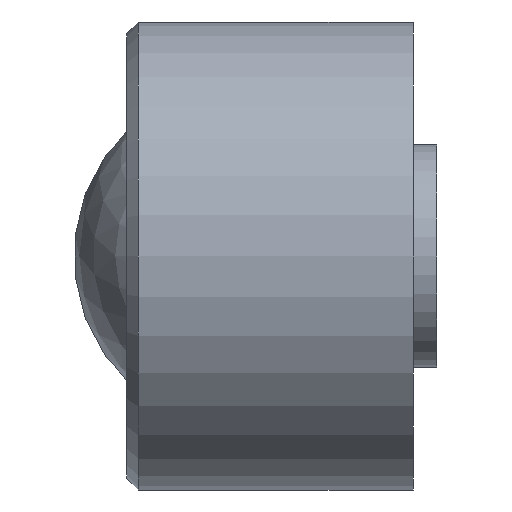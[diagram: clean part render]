
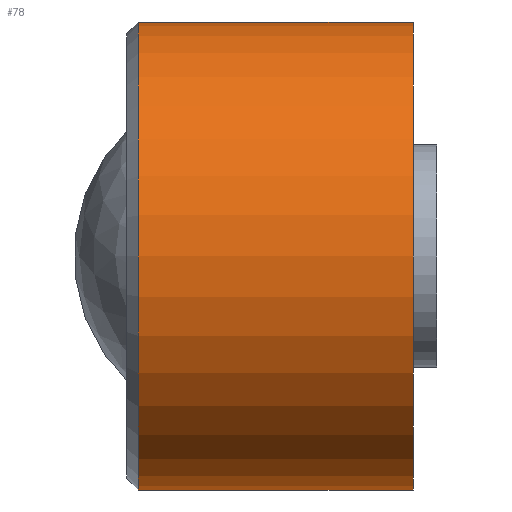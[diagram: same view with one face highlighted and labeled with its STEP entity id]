
A CAD part, left-side view. The second image highlights one B-rep face of the part: STEP entity #78.
In plain terms, the highlighted cylindrical face has radius 20 mm (diameter 40 mm), a full revolution.
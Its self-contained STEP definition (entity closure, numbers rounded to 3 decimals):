
#78 = ADVANCED_FACE( '', ( #99, #100, #101 ), #102, .T. );
#99 = FACE_OUTER_BOUND( '', #141, .T. );
#100 = FACE_BOUND( '', #142, .T. );
#101 = FACE_OUTER_BOUND( '', #143, .T. );
#102 = CYLINDRICAL_SURFACE( '', #144, 20. );
#141 = EDGE_LOOP( '', ( #189 ) );
#142 = EDGE_LOOP( '', ( #190 ) );
#143 = EDGE_LOOP( '', ( #191 ) );
#144 = AXIS2_PLACEMENT_3D( '', #192, #193, #194 );
#189 = ORIENTED_EDGE( '', *, *, #249, .F. );
#190 = ORIENTED_EDGE( '', *, *, #250, .F. );
#191 = ORIENTED_EDGE( '', *, *, #251, .T. );
#192 = CARTESIAN_POINT( '', ( 0., 0., 0. ) );
#193 = DIRECTION( '', ( 0., 1., 0. ) );
#194 = DIRECTION( '', ( 0., 0., -1. ) );
#249 = EDGE_CURVE( '', #267, #267, #268, .T. );
#250 = EDGE_CURVE( '', #269, #269, #270, .T. );
#251 = EDGE_CURVE( '', #271, #271, #272, .T. );
#267 = VERTEX_POINT( '', #293 );
#268 = CIRCLE( '', #294, 20. );
#269 = VERTEX_POINT( '', #295 );
#270 = B_SPLINE_CURVE_WITH_KNOTS( '', 3, ( #296, #297, #298, #299, #300, #301, #302, #303, #304, #305, #306, #307, #308, #309, #310, #311, #312, #313, #314, #315, #316, #317, #318, #319, #320, #321, #322, #323, #324, #325, #326, #327, #328, #329, #330, #331, #332, #333, #334, #335, #336, #337, #338, #339, #340, #341, #342, #343, #344, #345, #346, #347, #348, #349, #350, #351, #352, #353, #354, #355, #356, #357, #358, #359, #360, #361, #362, #363, #364, #365, #366, #367, #368, #369, #370, #371, #372, #373, #374, #375, #376, #377, #378, #379 ), .UNSPECIFIED., .T., .F., ( 2, 2, 2, 2, 2, 2, 2, 2, 2, 2, 2, 2, 2, 2, 2, 2, 2, 2, 2, 2, 2, 2, 2, 2, 2, 2, 2, 2, 2, 2, 2, 2, 2, 2, 2, 2, 2, 2, 2, 2, 2, 2, 2, 2 ), ( -0.001, 0., 0.001, 0.002, 0.002, 0.004, 0.004, 0.005, 0.006, 0.007, 0.008, 0.008, 0.009, 0.011, 0.012, 0.013, 0.014, 0.014, 0.015, 0.017, 0.018, 0.018, 0.019, 0.02, 0.021, 0.022, 0.024, 0.024, 0.025, 0.026, 0.027, 0.028, 0.028, 0.029, 0.03, 0.031, 0.032, 0.033, 0.034, 0.034, 0.035, 0.037, 0.038, 0.039 ), .UNSPECIFIED. );
#271 = VERTEX_POINT( '', #380 );
#272 = CIRCLE( '', #381, 20. );
#293 = CARTESIAN_POINT( '', ( 0., 2., -20. ) );
#294 = AXIS2_PLACEMENT_3D( '', #406, #407, #408 );
#295 = CARTESIAN_POINT( '', ( 19.079, 16., 6. ) );
#296 = CARTESIAN_POINT( '', ( 19.079, 16.399, 6. ) );
#297 = CARTESIAN_POINT( '', ( 19.079, 15.601, 6. ) );
#298 = CARTESIAN_POINT( '', ( 19.091, 15.209, 5.961 ) );
#299 = CARTESIAN_POINT( '', ( 19.127, 14.632, 5.845 ) );
#300 = CARTESIAN_POINT( '', ( 19.141, 14.441, 5.797 ) );
#301 = CARTESIAN_POINT( '', ( 19.176, 14.063, 5.682 ) );
#302 = CARTESIAN_POINT( '', ( 19.196, 13.876, 5.615 ) );
#303 = CARTESIAN_POINT( '', ( 19.261, 13.332, 5.388 ) );
#304 = CARTESIAN_POINT( '', ( 19.312, 12.988, 5.204 ) );
#305 = CARTESIAN_POINT( '', ( 19.396, 12.5, 4.878 ) );
#306 = CARTESIAN_POINT( '', ( 19.426, 12.342, 4.76 ) );
#307 = CARTESIAN_POINT( '', ( 19.485, 12.039, 4.511 ) );
#308 = CARTESIAN_POINT( '', ( 19.515, 11.894, 4.38 ) );
#309 = CARTESIAN_POINT( '', ( 19.605, 11.482, 3.967 ) );
#310 = CARTESIAN_POINT( '', ( 19.664, 11.234, 3.667 ) );
#311 = CARTESIAN_POINT( '', ( 19.775, 10.796, 3.011 ) );
#312 = CARTESIAN_POINT( '', ( 19.825, 10.611, 2.666 ) );
#313 = CARTESIAN_POINT( '', ( 19.888, 10.386, 2.125 ) );
#314 = CARTESIAN_POINT( '', ( 19.906, 10.319, 1.941 ) );
#315 = CARTESIAN_POINT( '', ( 19.94, 10.204, 1.564 ) );
#316 = CARTESIAN_POINT( '', ( 19.954, 10.155, 1.37 ) );
#317 = CARTESIAN_POINT( '', ( 19.988, 10.039, 0.789 ) );
#318 = CARTESIAN_POINT( '', ( 20., 10., 0.398 ) );
#319 = CARTESIAN_POINT( '', ( 20., 10., -0.39 ) );
#320 = CARTESIAN_POINT( '', ( 19.988, 10.039, -0.79 ) );
#321 = CARTESIAN_POINT( '', ( 19.943, 10.193, -1.562 ) );
#322 = CARTESIAN_POINT( '', ( 19.909, 10.308, -1.937 ) );
#323 = CARTESIAN_POINT( '', ( 19.825, 10.611, -2.666 ) );
#324 = CARTESIAN_POINT( '', ( 19.774, 10.797, -3.014 ) );
#325 = CARTESIAN_POINT( '', ( 19.692, 11.122, -3.499 ) );
#326 = CARTESIAN_POINT( '', ( 19.664, 11.239, -3.656 ) );
#327 = CARTESIAN_POINT( '', ( 19.605, 11.487, -3.958 ) );
#328 = CARTESIAN_POINT( '', ( 19.575, 11.62, -4.105 ) );
#329 = CARTESIAN_POINT( '', ( 19.485, 12.035, -4.52 ) );
#330 = CARTESIAN_POINT( '', ( 19.425, 12.335, -4.767 ) );
#331 = CARTESIAN_POINT( '', ( 19.313, 12.983, -5.201 ) );
#332 = CARTESIAN_POINT( '', ( 19.261, 13.335, -5.39 ) );
#333 = CARTESIAN_POINT( '', ( 19.174, 14.058, -5.69 ) );
#334 = CARTESIAN_POINT( '', ( 19.139, 14.432, -5.805 ) );
#335 = CARTESIAN_POINT( '', ( 19.103, 15.013, -5.921 ) );
#336 = CARTESIAN_POINT( '', ( 19.094, 15.211, -5.951 ) );
#337 = CARTESIAN_POINT( '', ( 19.082, 15.604, -5.99 ) );
#338 = CARTESIAN_POINT( '', ( 19.079, 15.801, -6. ) );
#339 = CARTESIAN_POINT( '', ( 19.079, 16.39, -6. ) );
#340 = CARTESIAN_POINT( '', ( 19.091, 16.784, -5.962 ) );
#341 = CARTESIAN_POINT( '', ( 19.139, 17.564, -5.806 ) );
#342 = CARTESIAN_POINT( '', ( 19.174, 17.939, -5.692 ) );
#343 = CARTESIAN_POINT( '', ( 19.26, 18.662, -5.391 ) );
#344 = CARTESIAN_POINT( '', ( 19.313, 19.013, -5.203 ) );
#345 = CARTESIAN_POINT( '', ( 19.424, 19.662, -4.769 ) );
#346 = CARTESIAN_POINT( '', ( 19.484, 19.963, -4.522 ) );
#347 = CARTESIAN_POINT( '', ( 19.574, 20.379, -4.107 ) );
#348 = CARTESIAN_POINT( '', ( 19.605, 20.512, -3.96 ) );
#349 = CARTESIAN_POINT( '', ( 19.663, 20.76, -3.658 ) );
#350 = CARTESIAN_POINT( '', ( 19.692, 20.876, -3.502 ) );
#351 = CARTESIAN_POINT( '', ( 19.774, 21.201, -3.017 ) );
#352 = CARTESIAN_POINT( '', ( 19.824, 21.387, -2.672 ) );
#353 = CARTESIAN_POINT( '', ( 19.909, 21.691, -1.94 ) );
#354 = CARTESIAN_POINT( '', ( 19.942, 21.806, -1.565 ) );
#355 = CARTESIAN_POINT( '', ( 19.977, 21.921, -0.988 ) );
#356 = CARTESIAN_POINT( '', ( 19.985, 21.951, -0.794 ) );
#357 = CARTESIAN_POINT( '', ( 19.997, 21.99, -0.399 ) );
#358 = CARTESIAN_POINT( '', ( 20., 22., -0.199 ) );
#359 = CARTESIAN_POINT( '', ( 20., 22., 0.394 ) );
#360 = CARTESIAN_POINT( '', ( 19.988, 21.961, 0.785 ) );
#361 = CARTESIAN_POINT( '', ( 19.954, 21.846, 1.365 ) );
#362 = CARTESIAN_POINT( '', ( 19.94, 21.798, 1.558 ) );
#363 = CARTESIAN_POINT( '', ( 19.907, 21.682, 1.937 ) );
#364 = CARTESIAN_POINT( '', ( 19.888, 21.616, 2.122 ) );
#365 = CARTESIAN_POINT( '', ( 19.825, 21.39, 2.664 ) );
#366 = CARTESIAN_POINT( '', ( 19.775, 21.206, 3.009 ) );
#367 = CARTESIAN_POINT( '', ( 19.664, 20.767, 3.665 ) );
#368 = CARTESIAN_POINT( '', ( 19.605, 20.519, 3.966 ) );
#369 = CARTESIAN_POINT( '', ( 19.515, 20.107, 4.379 ) );
#370 = CARTESIAN_POINT( '', ( 19.485, 19.962, 4.51 ) );
#371 = CARTESIAN_POINT( '', ( 19.426, 19.659, 4.759 ) );
#372 = CARTESIAN_POINT( '', ( 19.397, 19.501, 4.877 ) );
#373 = CARTESIAN_POINT( '', ( 19.313, 19.013, 5.204 ) );
#374 = CARTESIAN_POINT( '', ( 19.261, 18.669, 5.388 ) );
#375 = CARTESIAN_POINT( '', ( 19.174, 17.946, 5.689 ) );
#376 = CARTESIAN_POINT( '', ( 19.139, 17.563, 5.806 ) );
#377 = CARTESIAN_POINT( '', ( 19.091, 16.791, 5.961 ) );
#378 = CARTESIAN_POINT( '', ( 19.079, 16.399, 6. ) );
#379 = CARTESIAN_POINT( '', ( 19.079, 15.601, 6. ) );
#380 = CARTESIAN_POINT( '', ( 0., 25.5, -20. ) );
#381 = AXIS2_PLACEMENT_3D( '', #409, #410, #411 );
#406 = CARTESIAN_POINT( '', ( 0., 2., 0. ) );
#407 = DIRECTION( '', ( 0., -1., 0. ) );
#408 = DIRECTION( '', ( 0., 0., -1. ) );
#409 = CARTESIAN_POINT( '', ( 0., 25.5, 0. ) );
#410 = DIRECTION( '', ( 0., -1., 0. ) );
#411 = DIRECTION( '', ( 0., 0., -1. ) );
